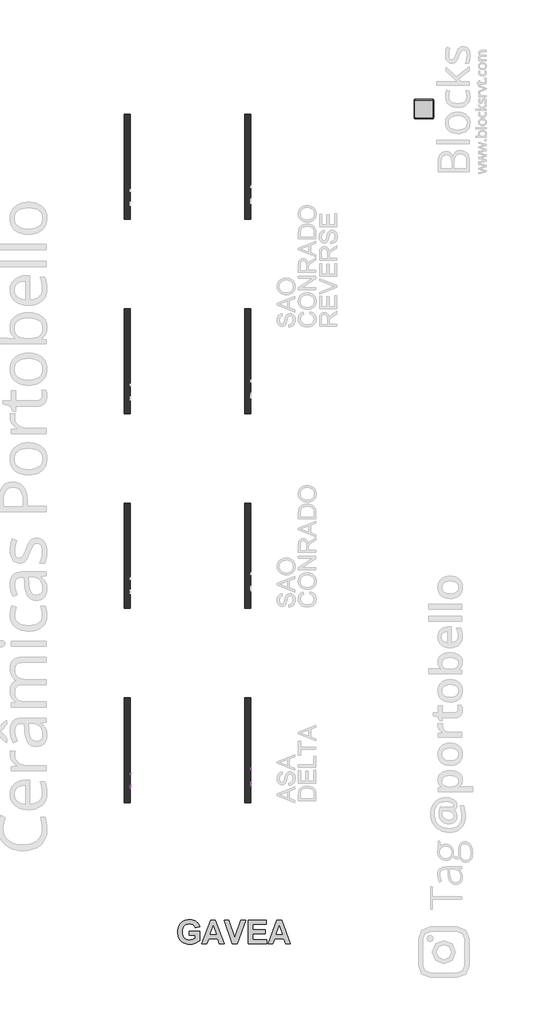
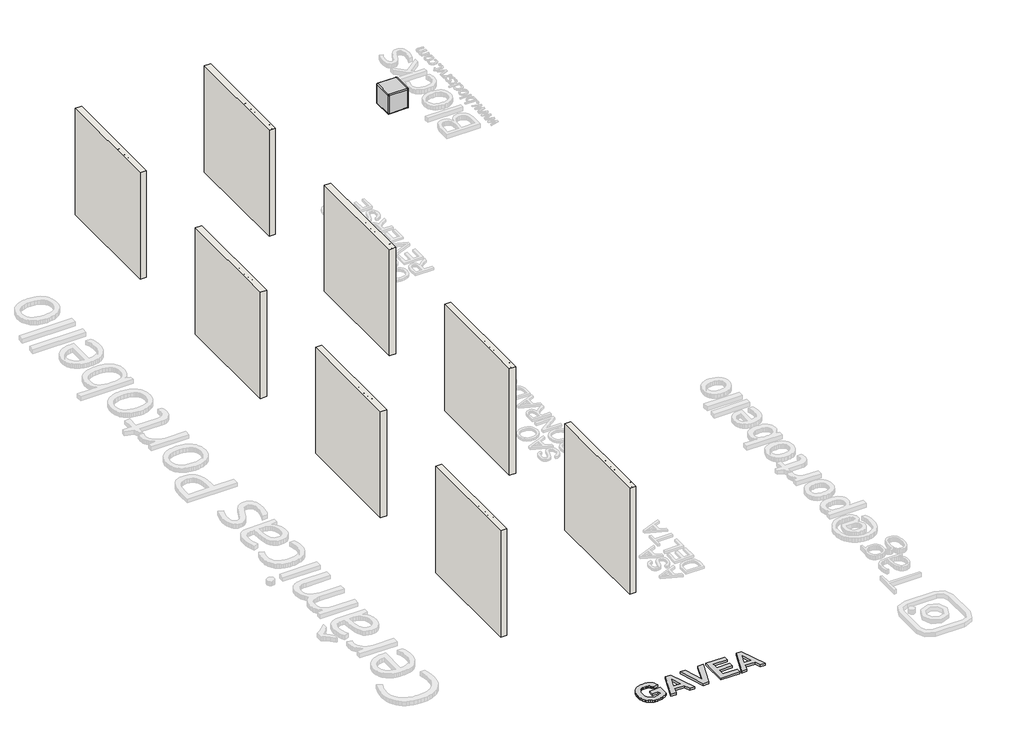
# One storey, part 1 of 7: 8 walls, 5 proxies, 1 furniture element.
"""IFC4 building model written with IfcOpenShell, lengths in millimetres."""

from ifc_helpers import new_model, si_unit, frame, origin, origin_with_axes, place, context, project, spatial, polyline, outline, extrude, transform, mapped, element, save
from components import branco_22256ad2

model = new_model("IFC4")

# Units and contexts
model_context = context("Model", 3, world=origin())
ifc_project = project(units=[si_unit("LENGTHUNIT", "METRE", prefix="MILLI")], contexts=[model_context])

# Site, building, storey
site = spatial("IfcSite", under=ifc_project)
building = spatial("IfcBuilding", under=site)
storey = spatial("IfcBuildingStorey", under=building, Name="PORTOBELLO - SHOWROOM", Elevation=0.0)

# Proxies
placement = place(None, origin())
element("IfcBuildingElementProxy", 1, Name="10mm Arial", ObjectType="10mm Arial", at=placement, inside=storey, context=model_context, shape_type="SweptSolid", body=[
    extrude(outline(polyline([(-8922.1279738, 2593.6185599), (-8909.5709351, 2590.3811984), (-8915.3650765, 2575.748692), (-8924.4578932, 2565.0586544), (-8936.4017953, 2558.5195519), (-8950.7491931, 2556.3398511), (-8965.3142544, 2557.9891887), (-8976.8810775, 2562.9372015), (-8985.7470335, 2571.0122113), (-8992.2094939, 2582.0425398), (-8997.4702065, 2608.8979255), (-8995.9833501, 2623.5457602), (-8991.5227809, 2636.1947695), (-8984.3214908, 2646.4433487), (-8974.6124718, 2653.8898935), (-8963.0977654, 2658.4240391), (-8950.4794129, 2659.9354209), (-8936.7114293, 2657.979515), (-8925.3285472, 2652.1117972), (-8916.686386, 2642.6940181), (-8911.1405649, 2630.0879284), (-8923.6976037, 2627.0958215), (-8933.9982996, 2642.5346025), (-8950.9699223, 2647.3783822), (-8970.6148208, 2642.007305), (-8981.7125943, 2627.5863308), (-8984.9131677, 2608.9224509), (-8981.1239831, 2587.2909896), (-8969.3272338, 2573.4708893), (-8951.9999919, 2568.8968898), (-8941.5184207, 2570.454257), (-8932.784289, 2575.1263583), (-8926.1900042, 2582.8641429), (-8922.1279738, 2593.6185599)])), frame((44010.9355471, 0.0, 0.0), z_axis=(1.0, 0.0, 0.0), x_axis=(0.0, 1.0, 0.0)), (0.0, 0.0, 1.0), 20.0),
    extrude(outline(polyline([(-8842.2240045, 2579.8842988), (-8829.9122204, 2578.3146689), (-8834.3482641, 2569.0379113), (-8841.4269268, 2562.1033357), (-8850.988793, 2557.7807222), (-8862.8744472, 2556.3398511), (-8877.6081211, 2558.8261202), (-8888.9450179, 2566.2849277), (-8896.1738991, 2578.2318955), (-8898.5835262, 2594.1826456), (-8896.1493736, 2610.6698904), (-8888.846916, 2623.0000686), (-8877.6633034, 2630.6888023), (-8863.5856857, 2633.2517135), (-8849.9464607, 2630.6949337), (-8839.0479566, 2623.0245941), (-8831.9018488, 2610.7189413), (-8829.5198129, 2594.256222), (-8829.5933893, 2590.8717077), (-8886.0264874, 2590.8717077), (-8883.8529179, 2581.4723227), (-8878.8037375, 2574.5622726), (-8871.5166084, 2570.3132355), (-8862.6291925, 2568.8968898), (-8850.3174084, 2571.5211147), (-8842.2240045, 2579.8842988)]), holes=[polyline([(-8886.0264874, 2603.4287465), (-8842.0768517, 2603.4287465), (-8847.1045723, 2614.8085628), (-8854.425424, 2619.2231468), (-8863.6347366, 2620.6946748), (-8879.0980431, 2615.998048), (-8883.9632825, 2610.5074092), (-8886.0264874, 2603.4287465)])]), frame((44010.9355471, 0.0, 0.0), z_axis=(1.0, 0.0, 0.0), x_axis=(0.0, 1.0, 0.0)), (0.0, 0.0, 1.0), 20.0),
    extrude(outline(polyline([(-8816.9627742, 2557.9094809), (-8816.9627742, 2631.6820837), (-8804.4057354, 2631.6820837), (-8804.4057354, 2619.5419778), (-8795.7727712, 2629.4870545), (-8783.4855126, 2633.2517135), (-8770.9039484, 2629.4134781), (-8763.9877669, 2618.6590611), (-8754.189843, 2629.6035504), (-8741.8167453, 2633.2517135), (-8732.3775064, 2631.7342003), (-8725.3969456, 2627.1816606), (-8721.0835292, 2619.4714671), (-8719.6457237, 2608.4809925), (-8719.6457237, 2557.9094809), (-8732.2027625, 2557.9094809), (-8732.2027625, 2603.0853899), (-8733.3677221, 2613.5700268), (-8737.5861023, 2618.7326375), (-8744.7598012, 2620.6946748), (-8757.1083735, 2615.6669542), (-8760.7963905, 2609.124786), (-8762.0257295, 2599.5537228), (-8762.0257295, 2557.9094809), (-8774.5827683, 2557.9094809), (-8774.5827683, 2604.4833415), (-8777.4890361, 2616.6479728), (-8787.0171798, 2620.6946748), (-8796.3123315, 2617.9968735), (-8802.492749, 2610.0996733), (-8804.4057354, 2595.1146134), (-8804.4057354, 2557.9094809), (-8816.9627742, 2557.9094809)])), frame((44010.9355471, 0.0, 0.0), z_axis=(1.0, 0.0, 0.0), x_axis=(0.0, 1.0, 0.0)), (0.0, 0.0, 1.0), 20.0),
    extrude(outline(polyline([(-8649.1595334, 2579.8842988), (-8636.8477493, 2578.3146689), (-8641.283793, 2569.0379113), (-8648.3624558, 2562.1033357), (-8657.924322, 2557.7807222), (-8669.8099761, 2556.3398511), (-8684.54365, 2558.8261202), (-8695.8805468, 2566.2849277), (-8703.109428, 2578.2318955), (-8705.5190551, 2594.1826456), (-8703.0849026, 2610.6698904), (-8695.7824449, 2623.0000686), (-8684.5988323, 2630.6888023), (-8670.5212146, 2633.2517135), (-8656.8819896, 2630.6949337), (-8645.9834855, 2623.0245941), (-8638.8373778, 2610.7189413), (-8636.4553419, 2594.256222), (-8636.5289183, 2590.8717077), (-8692.9620163, 2590.8717077), (-8690.7884469, 2581.4723227), (-8685.7392665, 2574.5622726), (-8678.4521373, 2570.3132355), (-8669.5647214, 2568.8968898), (-8657.2529373, 2571.5211147), (-8649.1595334, 2579.8842988)]), holes=[polyline([(-8692.9620163, 2603.4287465), (-8649.0123806, 2603.4287465), (-8654.0401012, 2614.8085628), (-8661.3609529, 2619.2231468), (-8670.5702655, 2620.6946748), (-8686.0335721, 2615.998048), (-8690.8988115, 2610.5074092), (-8692.9620163, 2603.4287465)])]), frame((44010.9355471, 0.0, 0.0), z_axis=(1.0, 0.0, 0.0), x_axis=(0.0, 1.0, 0.0)), (0.0, 0.0, 1.0), 20.0),
    extrude(outline(polyline([(-8623.8983031, 2557.9094809), (-8623.8983031, 2631.6820837), (-8611.3412643, 2631.6820837), (-8611.3412643, 2621.3813878), (-8601.7395442, 2630.2841321), (-8588.6306825, 2633.2517135), (-8576.7726195, 2630.8604806), (-8568.6792156, 2624.5819612), (-8564.9145565, 2615.3481231), (-8564.2523689, 2603.2080173), (-8564.2523689, 2557.9094809), (-8576.8094077, 2557.9094809), (-8576.8094077, 2601.5157601), (-8578.2564102, 2612.6257963), (-8583.36997, 2618.4996455), (-8591.9906714, 2620.6946748), (-8605.6145679, 2615.765056), (-8609.9095902, 2608.622014), (-8611.3412643, 2597.0521252), (-8611.3412643, 2557.9094809), (-8623.8983031, 2557.9094809)])), frame((44010.9355471, 0.0, 0.0), z_axis=(1.0, 0.0, 0.0), x_axis=(0.0, 1.0, 0.0)), (0.0, 0.0, 1.0), 20.0),
    extrude(outline(polyline([(-8520.3027332, 2568.3818551), (-8518.7331034, 2557.5415989), (-8528.126357, 2556.3398511), (-8538.6477821, 2558.4245157), (-8543.8962319, 2563.8936947), (-8545.4168108, 2578.1429907), (-8545.4168108, 2619.1250449), (-8554.8345899, 2619.1250449), (-8554.8345899, 2631.6820837), (-8545.4168108, 2631.6820837), (-8545.4168108, 2649.6101996), (-8532.859772, 2656.992365), (-8532.859772, 2631.6820837), (-8520.3027332, 2631.6820837), (-8520.3027332, 2619.1250449), (-8532.859772, 2619.1250449), (-8532.859772, 2578.5108727), (-8532.1975844, 2572.0361495), (-8530.0516061, 2569.7430184), (-8525.7719122, 2568.8968898), (-8520.3027332, 2568.3818551)])), frame((44010.9355471, 0.0, 0.0), z_axis=(1.0, 0.0, 0.0), x_axis=(0.0, 1.0, 0.0)), (0.0, 0.0, 1.0), 20.0),
])
element("IfcBuildingElementProxy", 2, Name="10mm Arial", ObjectType="10mm Arial", at=placement, inside=storey, context=model_context, shape_type="SweptSolid", body=[
    extrude(outline(polyline([(-8995.2589534, 2595.6216306), (-8991.9112273, 2617.8355717), (-8981.8680488, 2634.6416475), (-8966.533501, 2645.2182549), (-8947.3116667, 2648.7437907), (-8934.13536, 2647.0883217), (-8922.3202165, 2642.1219148), (-8912.51003, 2634.1940578), (-8905.3485938, 2623.6542386), (-8900.9707981, 2611.0113607), (-8899.5115328, 2596.7743275), (-8901.0474402, 2582.3472219), (-8905.6551622, 2569.5265344), (-8913.0802471, 2558.9683211), (-8923.0682433, 2551.3286383), (-8934.7822191, 2546.6933252), (-8947.3852431, 2545.1482208), (-8960.763885, 2546.8558064), (-8972.6464735, 2551.9785632), (-8982.4321346, 2560.053573), (-8989.5199943, 2570.6179176), (-8995.2589534, 2595.6216306)]), holes=[polyline([(-8982.7019147, 2595.4990032), (-8980.1911201, 2579.7843107), (-8972.6587362, 2567.8097517), (-8961.3371678, 2560.2313826), (-8947.4588195, 2557.7052596), (-8933.3781362, 2560.2559081), (-8922.0381737, 2567.9078536), (-8914.5609721, 2580.2502945), (-8912.0685716, 2596.8724293), (-8916.3360028, 2617.5964484), (-8928.8072024, 2631.3184468), (-8947.2380903, 2636.1867519), (-8960.7454909, 2633.8415042), (-8972.2295406, 2626.805761), (-8980.0838211, 2614.2885761), (-8982.7019147, 2595.4990032)])]), frame((47110.9355471, 0.0, 0.0), z_axis=(1.0, 0.0, 0.0), x_axis=(0.0, 1.0, 0.0)), (0.0, 0.0, 1.0), 20.0),
    extrude(outline(polyline([(-8839.8655987, 2546.7178507), (-8839.8655987, 2607.9334147), (-8850.8530076, 2607.9334147), (-8850.8530076, 2620.4904534), (-8839.8655987, 2620.4904534), (-8839.8655987, 2627.9216697), (-8838.5412235, 2638.3940439), (-8832.1155513, 2645.8743111), (-8819.4604107, 2648.7437907), (-8808.0070179, 2647.3703645), (-8809.8464279, 2635.5981407), (-8817.0814405, 2636.1867519), (-8824.9909033, 2634.1020873), (-8827.3085599, 2626.3275144), (-8827.3085599, 2620.4904534), (-8813.1818913, 2620.4904534), (-8813.1818913, 2607.9334147), (-8827.3085599, 2607.9334147), (-8827.3085599, 2546.7178507), (-8839.8655987, 2546.7178507)])), frame((47110.9355471, 0.0, 0.0), z_axis=(1.0, 0.0, 0.0), x_axis=(0.0, 1.0, 0.0)), (0.0, 0.0, 1.0), 20.0),
    extrude(outline(polyline([(-8880.6759747, 2546.7178507), (-8880.6759747, 2607.9334147), (-8891.6633836, 2607.9334147), (-8891.6633836, 2620.4904534), (-8880.6759747, 2620.4904534), (-8880.6759747, 2627.9216697), (-8879.3515995, 2638.3940439), (-8872.9259273, 2645.8743111), (-8860.2707867, 2648.7437907), (-8848.8173939, 2647.3703645), (-8850.6568039, 2635.5981407), (-8857.8918165, 2636.1867519), (-8865.8012793, 2634.1020873), (-8868.1189359, 2626.3275144), (-8868.1189359, 2620.4904534), (-8853.9922673, 2620.4904534), (-8853.9922673, 2607.9334147), (-8868.1189359, 2607.9334147), (-8868.1189359, 2546.7178507), (-8880.6759747, 2546.7178507)])), frame((47110.9355471, 0.0, 0.0), z_axis=(1.0, 0.0, 0.0), x_axis=(0.0, 1.0, 0.0)), (0.0, 0.0, 1.0), 20.0),
    extrude(outline(polyline([(-8743.4069396, 2546.7178507), (-8770.8018855, 2647.1741608), (-8757.8524392, 2647.1741608), (-8741.959937, 2581.1516054), (-8737.0548438, 2560.7709429), (-8731.806394, 2578.7971606), (-8711.8917153, 2647.1741608), (-8693.2278354, 2647.1741608), (-8678.7578103, 2597.6081933), (-8667.9911305, 2560.7709429), (-8663.2331901, 2580.5629942), (-8647.1935351, 2647.1741608), (-8634.2440888, 2647.1741608), (-8661.6635602, 2546.7178507), (-8675.0789903, 2546.7178507), (-8699.1629983, 2624.2183243), (-8702.5229872, 2635.034055), (-8706.299909, 2622.0110323), (-8728.2502014, 2546.7178507), (-8743.4069396, 2546.7178507)])), frame((47110.9355471, 0.0, 0.0), z_axis=(1.0, 0.0, 0.0), x_axis=(0.0, 1.0, 0.0)), (0.0, 0.0, 1.0), 20.0),
    extrude(outline(polyline([(-8623.2566799, 2546.7178507), (-8623.2566799, 2647.1741608), (-8610.6996412, 2647.1741608), (-8610.6996412, 2610.2388085), (-8600.9078487, 2619.1047646), (-8588.8474506, 2622.0600833), (-8574.7453075, 2618.8349845), (-8566.1859197, 2609.9199774), (-8563.6107458, 2593.4143386), (-8563.6107458, 2546.7178507), (-8576.1677845, 2546.7178507), (-8576.1677845, 2592.1144889), (-8580.1654356, 2605.3582407), (-8591.496201, 2609.5030445), (-8601.7846341, 2606.7071413), (-8608.6517647, 2599.1287722), (-8610.6996412, 2585.9095459), (-8610.6996412, 2546.7178507), (-8623.2566799, 2546.7178507)])), frame((47110.9355471, 0.0, 0.0), z_axis=(1.0, 0.0, 0.0), x_axis=(0.0, 1.0, 0.0)), (0.0, 0.0, 1.0), 20.0),
    extrude(outline(polyline([(47130.9355471, -8533.7877787), (47130.9355471, -8546.3448175), (47110.9355471, -8546.3448175), (47110.9355471, -8533.7877787), (47130.9355471, -8533.7877787)])), frame((0.0, 0.0, 2634.617122), z_axis=(0.0, 0.0, 1.0), x_axis=(1.0, 0.0, 0.0)), (0.0, 0.0, 1.0), 12.5570388),
    extrude(outline(polyline([(47130.9355471, -8533.7877787), (47130.9355471, -8546.3448175), (47110.9355471, -8546.3448175), (47110.9355471, -8533.7877787), (47130.9355471, -8533.7877787)])), frame((0.0, 0.0, 2546.7178507), z_axis=(0.0, 0.0, 1.0), x_axis=(1.0, 0.0, 0.0)), (0.0, 0.0, 1.0), 73.7726028),
    extrude(outline(polyline([(-8488.2685132, 2557.1902248), (-8486.6988833, 2546.3499687), (-8496.0921369, 2545.1482208), (-8506.613562, 2547.2328855), (-8511.8620118, 2552.7020645), (-8513.3825907, 2566.9513604), (-8513.3825907, 2607.9334147), (-8522.8003698, 2607.9334147), (-8522.8003698, 2620.4904534), (-8513.3825907, 2620.4904534), (-8513.3825907, 2638.4185693), (-8500.8255519, 2645.8007347), (-8500.8255519, 2620.4904534), (-8488.2685132, 2620.4904534), (-8488.2685132, 2607.9334147), (-8500.8255519, 2607.9334147), (-8500.8255519, 2567.3192424), (-8500.1633643, 2560.8445193), (-8498.017386, 2558.5513882), (-8493.7376922, 2557.7052596), (-8488.2685132, 2557.1902248)])), frame((47110.9355471, 0.0, 0.0), z_axis=(1.0, 0.0, 0.0), x_axis=(0.0, 1.0, 0.0)), (0.0, 0.0, 1.0), 20.0),
    extrude(outline(polyline([(-8424.0608423, 2568.6926685), (-8411.7490582, 2567.1230387), (-8416.1851019, 2557.846281), (-8423.2637646, 2550.9117054), (-8432.8256308, 2546.589092), (-8444.7112849, 2545.1482208), (-8459.4449588, 2547.63449), (-8470.7818557, 2555.0932974), (-8478.0107369, 2567.0402652), (-8480.4203639, 2582.9910154), (-8477.9862114, 2599.4782601), (-8470.6837538, 2611.8084383), (-8459.5001411, 2619.497172), (-8445.4225235, 2622.0600833), (-8431.7832985, 2619.5033034), (-8420.8847944, 2611.8329638), (-8413.7386866, 2599.5273111), (-8411.3566507, 2583.0645918), (-8411.4302271, 2579.6800774), (-8467.8633252, 2579.6800774), (-8465.6897557, 2570.2806925), (-8460.6405753, 2563.3706423), (-8453.3534461, 2559.1216053), (-8444.4660303, 2557.7052596), (-8432.1542462, 2560.3294845), (-8424.0608423, 2568.6926685)]), holes=[polyline([(-8467.8633252, 2592.2371162), (-8423.9136895, 2592.2371162), (-8428.9414101, 2603.6169326), (-8436.2622618, 2608.0315165), (-8445.4715744, 2609.5030445), (-8460.9348809, 2604.8064177), (-8465.8001203, 2599.3157789), (-8467.8633252, 2592.2371162)])]), frame((47110.9355471, 0.0, 0.0), z_axis=(1.0, 0.0, 0.0), x_axis=(0.0, 1.0, 0.0)), (0.0, 0.0, 1.0), 20.0),
])
element("IfcBuildingElementProxy", 3, Name="10mm Arial Narrow", ObjectType="10mm Arial Narrow", at=placement, inside=storey, context=model_context, shape_type="SweptSolid", body=[
    extrude(outline(polyline([(-8465.6262578, 2557.9094809), (-8465.6262578, 2658.6280847), (-8434.3293731, 2658.6280847), (-8418.0336716, 2656.7497639), (-8406.5606855, 2647.2693208), (-8402.2710071, 2630.2502119), (-8404.0573155, 2618.1743864), (-8409.4162407, 2608.5479926), (-8419.1600295, 2602.2467342), (-8434.1009287, 2600.1463148), (-8455.8792961, 2600.1463148), (-8455.8792961, 2557.9094809), (-8465.6262578, 2557.9094809)]), holes=[polyline([(-8455.8792961, 2611.51777), (-8432.9079412, 2611.51777), (-8417.0437458, 2616.0485842), (-8412.0179687, 2629.717175), (-8414.4927832, 2639.8829514), (-8420.470412, 2645.6829012), (-8433.1363856, 2647.2566294), (-8455.8792961, 2647.2566294), (-8455.8792961, 2611.51777)])]), frame((44010.9355471, 0.0, 0.0), z_axis=(1.0, 0.0, 0.0), x_axis=(0.0, 1.0, 0.0)), (0.0, 0.0, 1.0), 20.0),
    extrude(outline(polyline([(-8394.148539, 2594.4605871), (-8392.1940701, 2611.0513627), (-8386.3306635, 2623.0034475), (-8377.4720968, 2630.2280021), (-8366.5321477, 2632.6361869), (-8355.7191121, 2630.2280021), (-8346.8351626, 2623.0034475), (-8340.8956079, 2611.241733), (-8338.9157563, 2595.2220685), (-8340.8607067, 2578.0601819), (-8346.6955577, 2565.9177268), (-8355.5446059, 2558.6931722), (-8366.5321477, 2556.2849873), (-8377.3927758, 2558.6995179), (-8386.2672067, 2565.9431095), (-8392.1782059, 2577.90154), (-8394.148539, 2594.4605871)]), holes=[polyline([(-8384.4015774, 2594.4859698), (-8383.0975405, 2581.9342184), (-8379.1854299, 2573.0629604), (-8373.3442332, 2567.7897018), (-8366.2529378, 2566.031949), (-8359.5328646, 2567.805566), (-8353.8407913, 2573.1264172), (-8349.9572363, 2582.0135394), (-8348.662718, 2594.4859698), (-8349.9667548, 2606.9996472), (-8353.8788654, 2615.8582139), (-8359.7200622, 2621.1314724), (-8366.8113575, 2622.8892253), (-8373.5790233, 2621.1219539), (-8379.261578, 2615.8201398), (-8383.1165775, 2606.9520546), (-8384.4015774, 2594.4859698)])]), frame((44010.9355471, 0.0, 0.0), z_axis=(1.0, 0.0, 0.0), x_axis=(0.0, 1.0, 0.0)), (0.0, 0.0, 1.0), 20.0),
    extrude(outline(polyline([(-8267.4380375, 2566.031949), (-8265.8135439, 2556.2849873), (-8273.1745306, 2556.2849873), (-8281.4492949, 2558.4044438), (-8285.764356, 2564.2043937), (-8286.9319608, 2578.8502189), (-8286.9319608, 2621.2647317), (-8295.0544289, 2621.2647317), (-8295.0544289, 2624.5137189), (-8296.6789225, 2619.6402381), (-8304.2429708, 2621.2647317), (-8310.3221305, 2618.9422135), (-8314.1929942, 2612.4569304), (-8316.1728458, 2597.0496238), (-8316.1728458, 2557.9094809), (-8325.9198074, 2557.9094809), (-8325.9198074, 2631.0116933), (-8316.1728458, 2631.0116933), (-8316.1728458, 2621.3154971), (-8309.9286985, 2630.4025082), (-8303.5322549, 2632.6361869), (-8295.0544289, 2631.0116933), (-8286.9319608, 2631.0116933), (-8286.9319608, 2647.2566294), (-8277.1849992, 2655.3790975), (-8277.1849992, 2631.0116933), (-8267.4380375, 2631.0116933), (-8267.4380375, 2621.2647317), (-8277.1849992, 2621.2647317), (-8277.1849992, 2576.6165401), (-8276.3219869, 2568.6209857), (-8271.7023332, 2566.031949), (-8267.4380375, 2566.031949)])), frame((44010.9355471, 0.0, 0.0), z_axis=(1.0, 0.0, 0.0), x_axis=(0.0, 1.0, 0.0)), (0.0, 0.0, 1.0), 20.0),
    extrude(outline(polyline([(-8260.9400631, 2594.4605871), (-8258.9855942, 2611.0513627), (-8253.1221876, 2623.0034475), (-8244.2636209, 2630.2280021), (-8233.3236717, 2632.6361869), (-8222.5106361, 2630.2280021), (-8213.6266867, 2623.0034475), (-8207.687132, 2611.241733), (-8205.7072804, 2595.2220685), (-8207.6522307, 2578.0601819), (-8213.4870818, 2565.9177268), (-8222.33613, 2558.6931722), (-8233.3236717, 2556.2849873), (-8244.1842999, 2558.6995179), (-8253.0587308, 2565.9431095), (-8258.96973, 2577.90154), (-8260.9400631, 2594.4605871)]), holes=[polyline([(-8251.1931014, 2594.4859698), (-8249.8890646, 2581.9342184), (-8245.976954, 2573.0629604), (-8240.1357572, 2567.7897018), (-8233.0444619, 2566.031949), (-8226.3243887, 2567.805566), (-8220.6323154, 2573.1264172), (-8216.7487604, 2582.0135394), (-8215.454242, 2594.4859698), (-8216.7582789, 2606.9996472), (-8220.6703895, 2615.8582139), (-8226.5115862, 2621.1314724), (-8233.6028816, 2622.8892253), (-8240.3705473, 2621.1219539), (-8246.0531021, 2615.8201398), (-8249.9081016, 2606.9520546), (-8251.1931014, 2594.4859698)])]), frame((44010.9355471, 0.0, 0.0), z_axis=(1.0, 0.0, 0.0), x_axis=(0.0, 1.0, 0.0)), (0.0, 0.0, 1.0), 20.0),
    extrude(outline(polyline([(-8182.9643698, 2557.9094809), (-8192.7113315, 2557.9094809), (-8192.7113315, 2658.6280847), (-8182.9643698, 2658.6280847), (-8182.9643698, 2623.2192005), (-8175.5653091, 2630.3009774), (-8166.3640758, 2632.6361869), (-8153.4823491, 2628.435348), (-8144.2049676, 2615.7059176), (-8140.727536, 2595.0190068), (-8142.659795, 2578.5646633), (-8148.456572, 2566.3619242), (-8156.8296943, 2558.8042215), (-8166.4909893, 2556.2849873), (-8175.8318276, 2558.8994067), (-8182.9643698, 2566.6665168), (-8182.9643698, 2557.9094809)]), holes=[polyline([(-8182.9643698, 2595.0190068), (-8180.8829874, 2577.7714536), (-8174.9941981, 2569.0398004), (-8166.5417548, 2566.031949), (-8160.5990272, 2567.8214302), (-8155.3606699, 2573.1898739), (-8150.4744977, 2594.6128834), (-8155.1829909, 2616.0485842), (-8160.4276939, 2621.179065), (-8166.7448165, 2622.8892253), (-8172.7224453, 2621.099744), (-8178.0147409, 2615.7313003), (-8182.9643698, 2595.0190068)])]), frame((44010.9355471, 0.0, 0.0), z_axis=(1.0, 0.0, 0.0), x_axis=(0.0, 1.0, 0.0)), (0.0, 0.0, 1.0), 20.0),
    extrude(outline(polyline([(-8088.7437405, 2580.6523914), (-8078.9967789, 2579.0278978), (-8082.6963092, 2569.1413313), (-8088.5152961, 2562.0214804), (-8096.2189494, 2557.7191106), (-8105.572479, 2556.2849873), (-8117.166033, 2558.6995179), (-8126.3101552, 2565.9431095), (-8132.24971, 2577.7492437), (-8134.2295616, 2593.851402), (-8132.2401915, 2610.5183257), (-8126.2720812, 2622.6988549), (-8117.2580453, 2630.1518539), (-8106.1308987, 2632.6361869), (-8095.4479495, 2630.2375206), (-8086.7004322, 2623.0415216), (-8080.8655811, 2611.302017), (-8078.9206307, 2595.2728339), (-8078.9967789, 2592.0238467), (-8124.4825999, 2592.0238467), (-8118.4795884, 2572.5806888), (-8112.5495521, 2567.6691339), (-8105.4455654, 2566.031949), (-8095.2670977, 2569.6870596), (-8088.7437405, 2580.6523914)]), holes=[polyline([(-8123.8226494, 2601.7708084), (-8088.7437405, 2601.7708084), (-8093.0080363, 2616.0358929), (-8098.8333688, 2621.1758922), (-8106.0547506, 2622.8892253), (-8118.2638353, 2617.1781149), (-8123.8226494, 2601.7708084)])]), frame((44010.9355471, 0.0, 0.0), z_axis=(1.0, 0.0, 0.0), x_axis=(0.0, 1.0, 0.0)), (0.0, 0.0, 1.0), 20.0),
    extrude(outline(polyline([(44030.9355471, -8056.2538684), (44030.9355471, -8066.00083), (44010.9355471, -8066.00083), (44010.9355471, -8056.2538684), (44030.9355471, -8056.2538684)])), frame((0.0, 0.0, 2557.9094809), z_axis=(0.0, 0.0, 1.0), x_axis=(1.0, 0.0, 0.0)), (0.0, 0.0, 1.0), 100.7186038),
    extrude(outline(polyline([(44030.9355471, -8030.2619706), (44030.9355471, -8040.0089323), (44010.9355471, -8040.0089323), (44010.9355471, -8030.2619706), (44030.9355471, -8030.2619706)])), frame((0.0, 0.0, 2557.9094809), z_axis=(0.0, 0.0, 1.0), x_axis=(1.0, 0.0, 0.0)), (0.0, 0.0, 1.0), 100.7186038),
    extrude(outline(polyline([(-8018.8905153, 2594.4605871), (-8016.9360465, 2611.0513627), (-8011.0726399, 2623.0034475), (-8002.2140731, 2630.2280021), (-7991.274124, 2632.6361869), (-7980.4610884, 2630.2280021), (-7971.577139, 2623.0034475), (-7965.6375842, 2611.241733), (-7963.6577326, 2595.2220685), (-7965.602683, 2578.0601819), (-7971.4375341, 2565.9177268), (-7980.2865823, 2558.6931722), (-7991.274124, 2556.2849873), (-8002.1347522, 2558.6995179), (-8011.0091831, 2565.9431095), (-8016.9201823, 2577.90154), (-8018.8905153, 2594.4605871)]), holes=[polyline([(-8009.1435537, 2594.4859698), (-8007.8395168, 2581.9342184), (-8003.9274062, 2573.0629604), (-7998.0862095, 2567.7897018), (-7990.9949142, 2566.031949), (-7984.274841, 2567.805566), (-7978.5827677, 2573.1264172), (-7974.6992126, 2582.0135394), (-7973.4046943, 2594.4859698), (-7974.7087312, 2606.9996472), (-7978.6208417, 2615.8582139), (-7984.4620385, 2621.1314724), (-7991.5533338, 2622.8892253), (-7998.3209996, 2621.1219539), (-8004.0035544, 2615.8201398), (-8007.8585539, 2606.9520546), (-8009.1435537, 2594.4859698)])]), frame((44010.9355471, 0.0, 0.0), z_axis=(1.0, 0.0, 0.0), x_axis=(0.0, 1.0, 0.0)), (0.0, 0.0, 1.0), 20.0),
])
element("IfcBuildingElementProxy", 4, Name="10mm Arial Narrow", ObjectType="10mm Arial Narrow", at=placement, inside=storey, context=model_context, shape_type="SweptSolid", body=[
    extrude(outline(polyline([(-8343.4150048, 2546.7178507), (-8343.4150048, 2647.4364544), (-8312.1181201, 2647.4364544), (-8295.8224186, 2645.5581337), (-8284.3494325, 2636.0776905), (-8280.059754, 2619.0585817), (-8281.8460624, 2606.9827562), (-8287.2049876, 2597.3563624), (-8296.9487765, 2591.055104), (-8311.8896757, 2588.9546845), (-8333.6680431, 2588.9546845), (-8333.6680431, 2546.7178507), (-8343.4150048, 2546.7178507)]), holes=[polyline([(-8333.6680431, 2600.3261398), (-8310.6966882, 2600.3261398), (-8294.8324928, 2604.856954), (-8289.8067157, 2618.5255447), (-8292.2815302, 2628.6913211), (-8298.259159, 2634.491271), (-8310.9251326, 2636.0649992), (-8333.6680431, 2636.0649992), (-8333.6680431, 2600.3261398)])]), frame((47110.9355471, 0.0, 0.0), z_axis=(1.0, 0.0, 0.0), x_axis=(0.0, 1.0, 0.0)), (0.0, 0.0, 1.0), 20.0),
    extrude(outline(polyline([(-8271.937286, 2583.2689569), (-8269.9828171, 2599.8597324), (-8264.1194105, 2611.8118172), (-8255.2608438, 2619.0363718), (-8244.3208946, 2621.4445567), (-8233.5078591, 2619.0363718), (-8224.6239096, 2611.8118172), (-8218.6843549, 2600.0501028), (-8216.7045033, 2584.0304382), (-8218.6494537, 2566.8685517), (-8224.4843047, 2554.7260965), (-8233.3333529, 2547.5015419), (-8244.3208946, 2545.0933571), (-8255.1815228, 2547.5078876), (-8264.0559537, 2554.7514792), (-8269.9669529, 2566.7099097), (-8271.937286, 2583.2689569)]), holes=[polyline([(-8262.1903243, 2583.2943396), (-8260.8862875, 2570.7425882), (-8256.9741769, 2561.8713301), (-8251.1329802, 2556.5980716), (-8244.0416848, 2554.8403187), (-8237.3216116, 2556.6139358), (-8231.6295383, 2561.9347869), (-8227.7459833, 2570.8219092), (-8226.4514649, 2583.2943396), (-8227.7555018, 2595.8080169), (-8231.6676124, 2604.6665836), (-8237.5088091, 2609.9398422), (-8244.6001045, 2611.697595), (-8251.3677702, 2609.9303237), (-8257.050325, 2604.6285096), (-8260.9053245, 2595.7604243), (-8262.1903243, 2583.2943396)])]), frame((47110.9355471, 0.0, 0.0), z_axis=(1.0, 0.0, 0.0), x_axis=(0.0, 1.0, 0.0)), (0.0, 0.0, 1.0), 20.0),
    extrude(outline(polyline([(-8145.2267845, 2554.8403187), (-8143.6022909, 2545.0933571), (-8150.9632776, 2545.0933571), (-8159.2380419, 2547.2128136), (-8163.553103, 2553.0127634), (-8164.7207078, 2567.6585886), (-8164.7207078, 2610.0731014), (-8172.8431759, 2610.0731014), (-8172.8431759, 2613.3220886), (-8174.4676695, 2608.4486078), (-8182.0317178, 2610.0731014), (-8188.1108775, 2607.7505832), (-8191.9817412, 2601.2653001), (-8193.9615928, 2585.8579936), (-8193.9615928, 2546.7178507), (-8203.7085544, 2546.7178507), (-8203.7085544, 2619.8200631), (-8193.9615928, 2619.8200631), (-8193.9615928, 2610.1238668), (-8187.7174455, 2619.210878), (-8181.3210019, 2621.4445567), (-8172.8431759, 2619.8200631), (-8164.7207078, 2619.8200631), (-8164.7207078, 2636.0649992), (-8154.9737462, 2644.1874672), (-8154.9737462, 2619.8200631), (-8145.2267845, 2619.8200631), (-8145.2267845, 2610.0731014), (-8154.9737462, 2610.0731014), (-8154.9737462, 2565.4249099), (-8154.1107339, 2557.4293554), (-8149.4910802, 2554.8403187), (-8145.2267845, 2554.8403187)])), frame((47110.9355471, 0.0, 0.0), z_axis=(1.0, 0.0, 0.0), x_axis=(0.0, 1.0, 0.0)), (0.0, 0.0, 1.0), 20.0),
    extrude(outline(polyline([(-8138.7288101, 2583.2689569), (-8136.7743412, 2599.8597324), (-8130.9109346, 2611.8118172), (-8122.0523679, 2619.0363718), (-8111.1124187, 2621.4445567), (-8100.2993831, 2619.0363718), (-8091.4154337, 2611.8118172), (-8085.4758789, 2600.0501028), (-8083.4960274, 2584.0304382), (-8085.4409777, 2566.8685517), (-8091.2758288, 2554.7260965), (-8100.124877, 2547.5015419), (-8111.1124187, 2545.0933571), (-8121.9730469, 2547.5078876), (-8130.8474778, 2554.7514792), (-8136.758477, 2566.7099097), (-8138.7288101, 2583.2689569)]), holes=[polyline([(-8128.9818484, 2583.2943396), (-8127.6778116, 2570.7425882), (-8123.765701, 2561.8713301), (-8117.9245042, 2556.5980716), (-8110.8332089, 2554.8403187), (-8104.1131357, 2556.6139358), (-8098.4210624, 2561.9347869), (-8094.5375074, 2570.8219092), (-8093.242989, 2583.2943396), (-8094.5470259, 2595.8080169), (-8098.4591365, 2604.6665836), (-8104.3003332, 2609.9398422), (-8111.3916286, 2611.697595), (-8118.1592943, 2609.9303237), (-8123.8418491, 2604.6285096), (-8127.6968486, 2595.7604243), (-8128.9818484, 2583.2943396)])]), frame((47110.9355471, 0.0, 0.0), z_axis=(1.0, 0.0, 0.0), x_axis=(0.0, 1.0, 0.0)), (0.0, 0.0, 1.0), 20.0),
    extrude(outline(polyline([(-8060.7531168, 2546.7178507), (-8070.5000785, 2546.7178507), (-8070.5000785, 2647.4364544), (-8060.7531168, 2647.4364544), (-8060.7531168, 2612.0275703), (-8053.3540561, 2619.1093471), (-8044.1528228, 2621.4445567), (-8031.2710961, 2617.2437177), (-8021.9937146, 2604.5142873), (-8018.516283, 2583.8273765), (-8020.448542, 2567.3730331), (-8026.245319, 2555.170294), (-8034.6184413, 2547.6125913), (-8044.2797363, 2545.0933571), (-8053.6205746, 2547.7077765), (-8060.7531168, 2555.4748865), (-8060.7531168, 2546.7178507)]), holes=[polyline([(-8060.7531168, 2583.8273765), (-8058.6717344, 2566.5798233), (-8052.7829451, 2557.8481702), (-8044.3305018, 2554.8403187), (-8038.3877742, 2556.6298), (-8033.1494168, 2561.9982437), (-8028.2632447, 2583.4212531), (-8032.9717379, 2604.856954), (-8038.2164409, 2609.9874348), (-8044.5335635, 2611.697595), (-8050.5111923, 2609.9081138), (-8055.8034879, 2604.5396701), (-8060.7531168, 2583.8273765)])]), frame((47110.9355471, 0.0, 0.0), z_axis=(1.0, 0.0, 0.0), x_axis=(0.0, 1.0, 0.0)), (0.0, 0.0, 1.0), 20.0),
    extrude(outline(polyline([(-7966.5324875, 2569.4607612), (-7956.7855259, 2567.8362676), (-7960.4850562, 2557.949701), (-7966.3040431, 2550.8298501), (-7974.0076964, 2546.5274803), (-7983.361226, 2545.0933571), (-7994.95478, 2547.5078876), (-8004.0989022, 2554.7514792), (-8010.038457, 2566.5576134), (-8012.0183086, 2582.6597718), (-8010.0289385, 2599.3266955), (-8004.0608282, 2611.5072247), (-7995.0467923, 2618.9602237), (-7983.9196457, 2621.4445567), (-7973.2366965, 2619.0458903), (-7964.4891792, 2611.8498913), (-7958.6543281, 2600.1103867), (-7956.7093777, 2584.0812037), (-7956.7855259, 2580.8322165), (-8002.2713469, 2580.8322165), (-7996.2683354, 2561.3890586), (-7990.3382991, 2556.4775037), (-7983.2343124, 2554.8403187), (-7973.0558447, 2558.4954293), (-7966.5324875, 2569.4607612)]), holes=[polyline([(-8001.6113964, 2590.5791781), (-7966.5324875, 2590.5791781), (-7970.7967832, 2604.8442626), (-7976.6221158, 2609.9842619), (-7983.8434975, 2611.697595), (-7996.0525823, 2605.9864847), (-8001.6113964, 2590.5791781)])]), frame((47110.9355471, 0.0, 0.0), z_axis=(1.0, 0.0, 0.0), x_axis=(0.0, 1.0, 0.0)), (0.0, 0.0, 1.0), 20.0),
    extrude(outline(polyline([(47130.9355471, -7934.0426153), (47130.9355471, -7943.789577), (47110.9355471, -7943.789577), (47110.9355471, -7934.0426153), (47130.9355471, -7934.0426153)])), frame((0.0, 0.0, 2546.7178507), z_axis=(0.0, 0.0, 1.0), x_axis=(1.0, 0.0, 0.0)), (0.0, 0.0, 1.0), 100.7186038),
    extrude(outline(polyline([(47130.9355471, -7908.0507176), (47130.9355471, -7917.7976793), (47110.9355471, -7917.7976793), (47110.9355471, -7908.0507176), (47130.9355471, -7908.0507176)])), frame((0.0, 0.0, 2546.7178507), z_axis=(0.0, 0.0, 1.0), x_axis=(1.0, 0.0, 0.0)), (0.0, 0.0, 1.0), 100.7186038),
    extrude(outline(polyline([(-7896.6792623, 2583.2689569), (-7894.7247935, 2599.8597324), (-7888.8613868, 2611.8118172), (-7880.0028201, 2619.0363718), (-7869.062871, 2621.4445567), (-7858.2498354, 2619.0363718), (-7849.365886, 2611.8118172), (-7843.4263312, 2600.0501028), (-7841.4464796, 2584.0304382), (-7843.39143, 2566.8685517), (-7849.2262811, 2554.7260965), (-7858.0753293, 2547.5015419), (-7869.062871, 2545.0933571), (-7879.9234992, 2547.5078876), (-7888.7979301, 2554.7514792), (-7894.7089293, 2566.7099097), (-7896.6792623, 2583.2689569)]), holes=[polyline([(-7886.9323007, 2583.2943396), (-7885.6282638, 2570.7425882), (-7881.7161532, 2561.8713301), (-7875.8749565, 2556.5980716), (-7868.7836611, 2554.8403187), (-7862.063588, 2556.6139358), (-7856.3715147, 2561.9347869), (-7852.4879596, 2570.8219092), (-7851.1934413, 2583.2943396), (-7852.4974781, 2595.8080169), (-7856.4095887, 2604.6665836), (-7862.2507855, 2609.9398422), (-7869.3420808, 2611.697595), (-7876.1097466, 2609.9303237), (-7881.7923014, 2604.6285096), (-7885.6473009, 2595.7604243), (-7886.9323007, 2583.2943396)])]), frame((47110.9355471, 0.0, 0.0), z_axis=(1.0, 0.0, 0.0), x_axis=(0.0, 1.0, 0.0)), (0.0, 0.0, 1.0), 20.0),
])
element("IfcBuildingElementProxy", 5, Name="600mm Arial", ObjectType="600mm Arial", at=placement, inside=storey, context=model_context, shape_type="SweptSolid", body=[
    extrude(outline(polyline([(45534.5679435, -12585.2148788), (45534.5679435, -12478.3305607), (45796.9203606, -12478.3305607), (45796.9203606, -12722.46406), (45775.6459784, -12740.9439259), (45750.0825593, -12758.2756204), (45686.0886103, -12789.4944953), (45649.6887307, -12802.1481031), (45613.0611146, -12811.1863944), (45576.205762, -12816.6093691), (45539.122673, -12818.4170274), (45493.414065, -12815.9024372), (45450.7229653, -12808.3586665), (45411.0493738, -12795.7857154), (45374.3932907, -12778.1835838), (45341.4284362, -12755.90811), (45312.8285308, -12729.3151322), (45288.5935744, -12698.4046505), (45268.7235671, -12663.1766648), (45253.246976, -12624.9691269), (45242.192268, -12585.1199886), (45235.5594432, -12543.6292499), (45233.3485016, -12500.4969108), (45235.8488583, -12454.147794), (45243.3499284, -12410.4461137), (45255.8517119, -12369.3918699), (45273.3542087, -12330.9850626), (45295.6771276, -12296.0607255), (45322.6401771, -12265.4538924), (45354.2433573, -12239.1645633), (45390.4866681, -12217.1927381), (45421.6675869, -12203.9081105), (45456.4543332, -12194.4190908), (45494.846907, -12188.725679), (45536.8453082, -12186.827875), (45590.5958604, -12189.8928284), (45638.1311047, -12199.0876885), (45679.451041, -12214.4124553), (45714.5556695, -12235.8671289), (45743.7011935, -12262.7305437), (45767.1438168, -12294.2815343), (45784.8835391, -12330.5201006), (45796.9203606, -12371.4462426), (45680.3192863, -12390.879755), (45671.9974161, -12369.5247161), (45660.6959936, -12350.5514212), (45646.4150189, -12333.9598702), (45629.154492, -12319.7500632), (45609.2370397, -12308.3584951), (45586.9852884, -12300.2216606), (45562.3992383, -12295.33956), (45535.4788894, -12293.7121931), (45495.1410666, -12296.8910147), (45459.1492148, -12306.4274795), (45427.503334, -12322.3215876), (45400.2034243, -12344.5733388), (45378.2173656, -12373.087843), (45362.513038, -12407.7702101), (45353.0904414, -12448.62044), (45349.9495759, -12495.6385327), (45353.0714634, -12546.2387303), (45362.4371258, -12590.092235), (45378.0465633, -12627.1990466), (45399.8997757, -12657.5591651), (45426.8201246, -12681.1725907), (45457.6309716, -12698.0393233), (45492.3323167, -12708.1593628), (45530.9241599, -12711.5327093), (45570.9488451, -12707.8319916), (45611.1633107, -12696.7298385), (45648.6069825, -12680.3517905), (45680.3192863, -12660.8233879), (45680.3192863, -12585.2148788), (45534.5679435, -12585.2148788)])), origin_with_axes(), (0.0, 0.0, 1.0), 50.0),
    extrude(outline(polyline([(46634.8387577, -12808.7002712), (46428.509513, -12196.5446312), (46551.4872085, -12196.5446312), (46705.4370644, -12653.2321722), (46859.8423932, -12196.5446312), (46982.3646158, -12196.5446312), (46765.1040204, -12808.7002712), (46634.8387577, -12808.7002712)])), origin_with_axes(), (0.0, 0.0, 1.0), 50.0),
    extrude(outline(polyline([(46428.509513, -12808.7002712), (46305.9872904, -12808.7002712), (46258.0108067, -12672.6656845), (46026.7823743, -12672.6656845), (45979.4131878, -12808.7002712), (45855.2208978, -12808.7002712), (46078.7062901, -12196.5446312), (46202.8985802, -12196.5446312), (46428.509513, -12808.7002712)]), holes=[polyline([(46220.6620251, -12565.7813664), (46141.8652054, -12342.2959741), (46064.1311559, -12565.7813664), (46220.6620251, -12565.7813664)])]), origin_with_axes(), (0.0, 0.0, 1.0), 50.0),
    extrude(outline(polyline([(47050.3819091, -12808.7002712), (47050.3819091, -12196.5446312), (47507.0694501, -12196.5446312), (47507.0694501, -12303.4289493), (47166.9829834, -12303.4289493), (47166.9829834, -12439.463536), (47487.6359377, -12439.463536), (47487.6359377, -12546.3478541), (47166.9829834, -12546.3478541), (47166.9829834, -12701.8159531), (47516.7862063, -12701.8159531), (47516.7862063, -12808.7002712), (47050.3819091, -12808.7002712)])), origin_with_axes(), (0.0, 0.0, 1.0), 50.0),
    extrude(outline(polyline([(48128.9418462, -12808.7002712), (48006.4196237, -12808.7002712), (47958.44314, -12672.6656845), (47727.2147075, -12672.6656845), (47679.8455211, -12808.7002712), (47555.653231, -12808.7002712), (47779.1386234, -12196.5446312), (47903.3309135, -12196.5446312), (48128.9418462, -12808.7002712)]), holes=[polyline([(47921.0943584, -12565.7813664), (47842.2975386, -12342.2959741), (47764.5634891, -12565.7813664), (47921.0943584, -12565.7813664)])]), origin_with_axes(), (0.0, 0.0, 1.0), 50.0),
])

# Furniture
branco_shape = branco_22256ad2(model_context)
element("IfcFurniture", 6, ObjectType="Blks_Mob_Blocks Revit_Cubo : Branco", at=placement, inside=storey, context=model_context, shape_type="MappedRepresentation", body=[
    mapped(branco_shape, transform((51560.8399636, 8660.1694969, 0.0), x_axis=(1.0, 0.0, 0.0), y_axis=(0.0, 1.0, 0.0), z_axis=(0.0, 0.0, 1.0))),
])

# Walls
element("IfcWall", 7, ObjectType="PORTOBELLO - GAVEA - ASA DELTA - OFF WHITE - 30X42,5", at=placement, inside=storey, context=model_context, shape_type="SweptSolid", body=[
    extrude(outline(polyline([(47110.9355471, -6475.0266924), (47110.9355471, -9175.0266924), (46960.9355471, -9175.0266924), (46960.9355471, -6475.0266924), (47110.9355471, -6475.0266924)])), origin_with_axes(), (0.0, 0.0, 1.0), 2700.0),
])
element("IfcWall", 8, ObjectType="PORTOBELLO - GAVEA - SAO CONRADO - OFF WHITE - 15X40 - COMPOSIÇÃO 03", at=placement, inside=storey, context=model_context, shape_type="SweptSolid", body=[
    extrude(outline(polyline([(47110.9355471, -1475.0266924), (47110.9355471, -4175.0266924), (46960.9355471, -4175.0266924), (46960.9355471, -1475.0266924), (47110.9355471, -1475.0266924)])), origin_with_axes(), (0.0, 0.0, 1.0), 2700.0),
])
element("IfcWall", 9, ObjectType="PORTOBELLO - GAVEA - SAO CONRADO - OFF WHITE - 15X40 - COMPOSIÇÃO 01", at=placement, inside=storey, context=model_context, shape_type="SweptSolid", body=[
    extrude(outline(polyline([(47110.9355471, 3524.9733076), (47110.9355471, 824.9733076), (46960.9355471, 824.9733076), (46960.9355471, 3524.9733076), (47110.9355471, 3524.9733076)])), origin_with_axes(), (0.0, 0.0, 1.0), 2700.0),
])
element("IfcWall", 10, ObjectType="PORTOBELLO - GAVEA - ASA DELTA - CEMENT - 30X42,5", at=placement, inside=storey, context=model_context, shape_type="SweptSolid", body=[
    extrude(outline(polyline([(44010.9355471, -6475.0266924), (44010.9355471, -9175.0266924), (43860.9355471, -9175.0266924), (43860.9355471, -6475.0266924), (44010.9355471, -6475.0266924)])), origin_with_axes(), (0.0, 0.0, 1.0), 2700.0),
])
element("IfcWall", 11, ObjectType="PORTOBELLO - GAVEA - SAO CONRADO - CEMENT - 15X40 - COMPOSIÇÃO 03", at=placement, inside=storey, context=model_context, shape_type="SweptSolid", body=[
    extrude(outline(polyline([(44010.9355471, -1475.0266924), (44010.9355471, -4175.0266924), (43860.9355471, -4175.0266924), (43860.9355471, -1475.0266924), (44010.9355471, -1475.0266924)])), origin_with_axes(), (0.0, 0.0, 1.0), 2700.0),
])
element("IfcWall", 12, ObjectType="PORTOBELLO - GAVEA - SAO CONRADO - CEMENT - 15X40 - COMPOSIÇÃO 01", at=placement, inside=storey, context=model_context, shape_type="SweptSolid", body=[
    extrude(outline(polyline([(44010.9355471, 3524.9733076), (44010.9355471, 824.9733076), (43860.9355471, 824.9733076), (43860.9355471, 3524.9733076), (44010.9355471, 3524.9733076)])), origin_with_axes(), (0.0, 0.0, 1.0), 2700.0),
])
element("IfcWall", 13, ObjectType="PORTOBELLO - GAVEA - SAO CONRADO - OFF WHITE - 15X40 - COMPOSIÇÃO 02", at=placement, inside=storey, context=model_context, shape_type="SweptSolid", body=[
    extrude(outline(polyline([(47110.9355471, 8524.9733076), (47110.9355471, 5824.9733076), (46960.9355471, 5824.9733076), (46960.9355471, 8524.9733076), (47110.9355471, 8524.9733076)])), origin_with_axes(), (0.0, 0.0, 1.0), 2700.0),
])
element("IfcWall", 14, ObjectType="PORTOBELLO - GAVEA - SAO CONRADO - CEMENT - 15X40 - COMPOSIÇÃO 02", at=placement, inside=storey, context=model_context, shape_type="SweptSolid", body=[
    extrude(outline(polyline([(44010.9355471, 8524.9733076), (44010.9355471, 5824.9733076), (43860.9355471, 5824.9733076), (43860.9355471, 8524.9733076), (44010.9355471, 8524.9733076)])), origin_with_axes(), (0.0, 0.0, 1.0), 2700.0),
])

save(model, "model.ifc")
